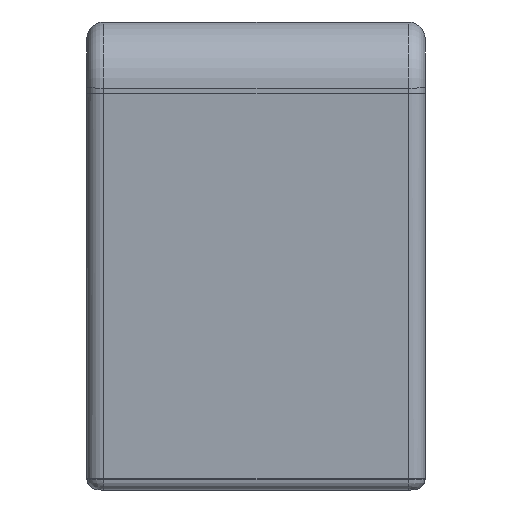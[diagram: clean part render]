
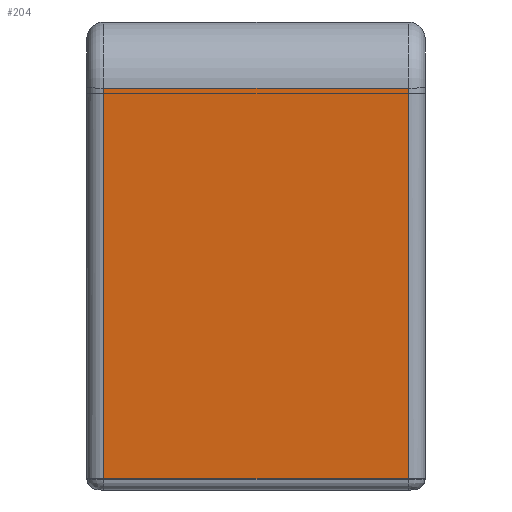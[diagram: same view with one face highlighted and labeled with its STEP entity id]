
A CAD part, left-side view. The second image highlights one B-rep face of the part: STEP entity #204.
In plain terms, the highlighted planar face has unit normal (-0.998, 0, -0.067).
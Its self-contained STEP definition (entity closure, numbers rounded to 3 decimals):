
#18 = EDGE_LOOP ( 'NONE', ( #2875, #2873, #2871, #2870 ) ) ;
#204 = ADVANCED_FACE ( 'NONE', ( #3413 ), #2936, .T. ) ;
#274 = AXIS2_PLACEMENT_3D ( 'NONE', #2934, #2932, #2930 ) ;
#499 = EDGE_CURVE ( 'NONE', #5083, #5087, #4113, .T. ) ;
#500 = EDGE_CURVE ( 'NONE', #5087, #5088, #4117, .T. ) ;
#501 = EDGE_CURVE ( 'NONE', #5088, #5090, #4121, .T. ) ;
#502 = EDGE_CURVE ( 'NONE', #5083, #5090, #4125, .T. ) ;
#1289 = CARTESIAN_POINT ( 'NONE',  ( -442.388, 13.5, 28.632 ) ) ;
#1293 = CARTESIAN_POINT ( 'NONE',  ( -440.063, 13.5, -6.067 ) ) ;
#1294 = CARTESIAN_POINT ( 'NONE',  ( -440.063, -13.5, -6.067 ) ) ;
#1296 = CARTESIAN_POINT ( 'NONE',  ( -442.388, -13.5, 28.632 ) ) ;
#2571 = CARTESIAN_POINT ( 'NONE',  ( -440., 13.5, -7. ) ) ;
#2572 = DIRECTION ( 'NONE',  ( 0.067, 0., -0.998 ) ) ;
#2573 = CARTESIAN_POINT ( 'NONE',  ( -440.063, 15., -6.067 ) ) ;
#2574 = DIRECTION ( 'NONE',  ( 0., -1., 0. ) ) ;
#2575 = CARTESIAN_POINT ( 'NONE',  ( -442.388, -13.5, 28.632 ) ) ;
#2576 = DIRECTION ( 'NONE',  ( -0.067, 0., 0.998 ) ) ;
#2577 = CARTESIAN_POINT ( 'NONE',  ( -442.388, 15., 28.632 ) ) ;
#2578 = DIRECTION ( 'NONE',  ( 0., -1., 0. ) ) ;
#2870 = ORIENTED_EDGE ( 'NONE', *, *, #502, .F. ) ;
#2871 = ORIENTED_EDGE ( 'NONE', *, *, #501, .T. ) ;
#2873 = ORIENTED_EDGE ( 'NONE', *, *, #500, .T. ) ;
#2875 = ORIENTED_EDGE ( 'NONE', *, *, #499, .T. ) ;
#2930 = DIRECTION ( 'NONE',  ( -0.067, 0., 0.998 ) ) ;
#2932 = DIRECTION ( 'NONE',  ( -0.998, 0., -0.067 ) ) ;
#2934 = CARTESIAN_POINT ( 'NONE',  ( -440., 15., -7. ) ) ;
#2936 = PLANE ( 'NONE',  #274 ) ;
#3413 = FACE_OUTER_BOUND ( 'NONE', #18, .T. ) ;
#4113 = LINE ( 'NONE', #2571, #4115 ) ;
#4115 = VECTOR ( 'NONE', #2572, 1000. ) ;
#4117 = LINE ( 'NONE', #2573, #4119 ) ;
#4119 = VECTOR ( 'NONE', #2574, 1000. ) ;
#4121 = LINE ( 'NONE', #2575, #4123 ) ;
#4123 = VECTOR ( 'NONE', #2576, 1000. ) ;
#4125 = LINE ( 'NONE', #2577, #4127 ) ;
#4127 = VECTOR ( 'NONE', #2578, 1000. ) ;
#5083 = VERTEX_POINT ( 'NONE', #1289 ) ;
#5087 = VERTEX_POINT ( 'NONE', #1293 ) ;
#5088 = VERTEX_POINT ( 'NONE', #1294 ) ;
#5090 = VERTEX_POINT ( 'NONE', #1296 ) ;
